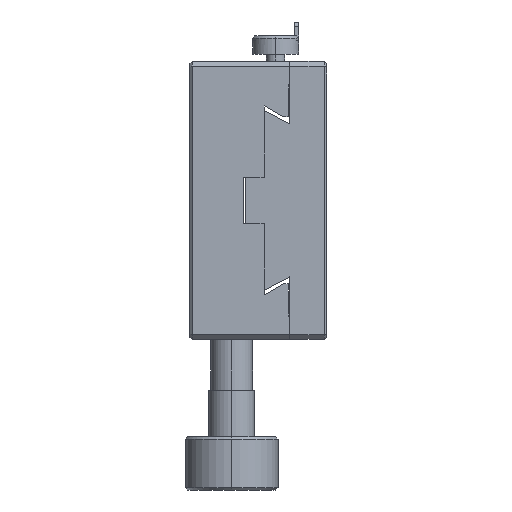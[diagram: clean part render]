
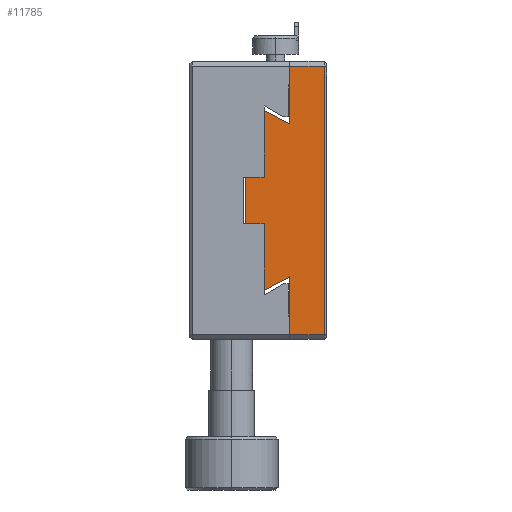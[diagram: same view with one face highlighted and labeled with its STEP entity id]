
A CAD part, left-side view. The second image highlights one B-rep face of the part: STEP entity #11785.
In plain terms, the highlighted planar face has unit normal (-1, 0, 0).
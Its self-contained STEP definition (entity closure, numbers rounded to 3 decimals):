
#65 = EDGE_CURVE ( 'NONE', #17365, #15823, #17699, .T. ) ;
#528 = ORIENTED_EDGE ( 'NONE', *, *, #14105, .F. ) ;
#829 = DIRECTION ( 'NONE',  ( 0., 1., 0. ) ) ;
#1056 = CARTESIAN_POINT ( 'NONE',  ( -243.708, -3.5, -29. ) ) ;
#1153 = VERTEX_POINT ( 'NONE', #1056 ) ;
#1317 = CARTESIAN_POINT ( 'NONE',  ( -243.708, 4., 16.519 ) ) ;
#1327 = CARTESIAN_POINT ( 'NONE',  ( -243.708, 9.5, 19.382 ) ) ;
#1492 = DIRECTION ( 'NONE',  ( 0., 0., 1. ) ) ;
#1901 = FACE_OUTER_BOUND ( 'NONE', #11229, .T. ) ;
#2115 = ORIENTED_EDGE ( 'NONE', *, *, #6313, .F. ) ;
#2584 = VERTEX_POINT ( 'NONE', #1327 ) ;
#2736 = ORIENTED_EDGE ( 'NONE', *, *, #11914, .F. ) ;
#2914 = EDGE_CURVE ( 'NONE', #5592, #8417, #3350, .T. ) ;
#3350 = LINE ( 'NONE', #17374, #6217 ) ;
#3634 = CARTESIAN_POINT ( 'NONE',  ( -243.708, 9.5, 19.382 ) ) ;
#3910 = CARTESIAN_POINT ( 'NONE',  ( -243.708, 9.5, -19.382 ) ) ;
#3991 = DIRECTION ( 'NONE',  ( 0., 0., 1. ) ) ;
#4134 = CARTESIAN_POINT ( 'NONE',  ( -243.708, 4., -16.519 ) ) ;
#4387 = DIRECTION ( 'NONE',  ( 0., -1., 0. ) ) ;
#4440 = EDGE_CURVE ( 'NONE', #9505, #10512, #10595, .T. ) ;
#4488 = ORIENTED_EDGE ( 'NONE', *, *, #11390, .F. ) ;
#5101 = LINE ( 'NONE', #7902, #7986 ) ;
#5526 = VERTEX_POINT ( 'NONE', #14689 ) ;
#5592 = VERTEX_POINT ( 'NONE', #6428 ) ;
#6217 = VECTOR ( 'NONE', #14652, 1000. ) ;
#6299 = CARTESIAN_POINT ( 'NONE',  ( -243.708, 9.5, 5. ) ) ;
#6313 = EDGE_CURVE ( 'NONE', #7208, #9505, #11243, .T. ) ;
#6428 = CARTESIAN_POINT ( 'NONE',  ( -243.708, 4., -29. ) ) ;
#6441 = CARTESIAN_POINT ( 'NONE',  ( -243.708, 4., 46.08 ) ) ;
#6488 = CARTESIAN_POINT ( 'NONE',  ( -243.708, 4., -16.519 ) ) ;
#6612 = VECTOR ( 'NONE', #17971, 1000. ) ;
#6733 = CARTESIAN_POINT ( 'NONE',  ( -243.708, 24., 5. ) ) ;
#6867 = ORIENTED_EDGE ( 'NONE', *, *, #11656, .F. ) ;
#7208 = VERTEX_POINT ( 'NONE', #13379 ) ;
#7222 = EDGE_CURVE ( 'NONE', #2584, #11341, #14316, .T. ) ;
#7379 = ORIENTED_EDGE ( 'NONE', *, *, #2914, .F. ) ;
#7902 = CARTESIAN_POINT ( 'NONE',  ( -243.708, 24., -5. ) ) ;
#7986 = VECTOR ( 'NONE', #829, 1000. ) ;
#8268 = DIRECTION ( 'NONE',  ( 0., -1., 0. ) ) ;
#8417 = VERTEX_POINT ( 'NONE', #6488 ) ;
#8506 = CARTESIAN_POINT ( 'NONE',  ( -243.708, -3.5, 0. ) ) ;
#9505 = VERTEX_POINT ( 'NONE', #12404 ) ;
#9672 = CARTESIAN_POINT ( 'NONE',  ( -243.708, 9.5, -5. ) ) ;
#9705 = DIRECTION ( 'NONE',  ( 0., 0., -1. ) ) ;
#9908 = CARTESIAN_POINT ( 'NONE',  ( -243.708, 13.5, 46.08 ) ) ;
#10105 = DIRECTION ( 'NONE',  ( 0., 1., 0. ) ) ;
#10206 = DIRECTION ( 'NONE',  ( 0., 0., -1. ) ) ;
#10512 = VERTEX_POINT ( 'NONE', #6299 ) ;
#10595 = LINE ( 'NONE', #6733, #18363 ) ;
#10773 = VECTOR ( 'NONE', #13405, 1000. ) ;
#10810 = EDGE_CURVE ( 'NONE', #10512, #2584, #16571, .T. ) ;
#11064 = CARTESIAN_POINT ( 'NONE',  ( -243.708, 4., 29. ) ) ;
#11142 = PLANE ( 'NONE',  #15982 ) ;
#11229 = EDGE_LOOP ( 'NONE', ( #12918, #14161, #2115, #18116, #15230, #12142, #7379, #528, #2736, #4488, #6867, #12071 ) ) ;
#11243 = LINE ( 'NONE', #9908, #12599 ) ;
#11341 = VERTEX_POINT ( 'NONE', #1317 ) ;
#11390 = EDGE_CURVE ( 'NONE', #12739, #5526, #16555, .T. ) ;
#11656 = EDGE_CURVE ( 'NONE', #11341, #12739, #15875, .T. ) ;
#11785 = ADVANCED_FACE ( 'NONE', ( #1901 ), #11142, .F. ) ;
#11914 = EDGE_CURVE ( 'NONE', #5526, #1153, #16752, .T. ) ;
#12071 = ORIENTED_EDGE ( 'NONE', *, *, #7222, .F. ) ;
#12142 = ORIENTED_EDGE ( 'NONE', *, *, #17536, .F. ) ;
#12404 = CARTESIAN_POINT ( 'NONE',  ( -243.708, 13.5, 5. ) ) ;
#12508 = CARTESIAN_POINT ( 'NONE',  ( -243.708, 9.5, 46.08 ) ) ;
#12599 = VECTOR ( 'NONE', #1492, 1000. ) ;
#12739 = VERTEX_POINT ( 'NONE', #11064 ) ;
#12918 = ORIENTED_EDGE ( 'NONE', *, *, #10810, .F. ) ;
#13379 = CARTESIAN_POINT ( 'NONE',  ( -243.708, 13.5, -5. ) ) ;
#13405 = DIRECTION ( 'NONE',  ( 0., 0., 1. ) ) ;
#13553 = DIRECTION ( 'NONE',  ( 0., -0.887, -0.462 ) ) ;
#13821 = VECTOR ( 'NONE', #10105, 1000. ) ;
#14105 = EDGE_CURVE ( 'NONE', #1153, #5592, #16907, .T. ) ;
#14126 = DIRECTION ( 'NONE',  ( 0., 0.887, -0.462 ) ) ;
#14161 = ORIENTED_EDGE ( 'NONE', *, *, #4440, .F. ) ;
#14316 = LINE ( 'NONE', #3634, #17663 ) ;
#14378 = CARTESIAN_POINT ( 'NONE',  ( -243.708, 24., 29. ) ) ;
#14384 = VECTOR ( 'NONE', #14126, 1000. ) ;
#14393 = CARTESIAN_POINT ( 'NONE',  ( -243.708, 24., -29. ) ) ;
#14652 = DIRECTION ( 'NONE',  ( 0., 0., 1. ) ) ;
#14689 = CARTESIAN_POINT ( 'NONE',  ( -243.708, -3.5, 29. ) ) ;
#15069 = CARTESIAN_POINT ( 'NONE',  ( -243.708, 9.5, 46.08 ) ) ;
#15230 = ORIENTED_EDGE ( 'NONE', *, *, #65, .F. ) ;
#15282 = EDGE_CURVE ( 'NONE', #15823, #7208, #5101, .T. ) ;
#15545 = DIRECTION ( 'NONE',  ( 1., 0., 0. ) ) ;
#15823 = VERTEX_POINT ( 'NONE', #9672 ) ;
#15858 = VECTOR ( 'NONE', #10206, 1000. ) ;
#15875 = LINE ( 'NONE', #6441, #10773 ) ;
#15982 = AXIS2_PLACEMENT_3D ( 'NONE', #18164, #15545, #9705 ) ;
#16119 = VECTOR ( 'NONE', #4387, 1000. ) ;
#16555 = LINE ( 'NONE', #14378, #16119 ) ;
#16571 = LINE ( 'NONE', #12508, #17909 ) ;
#16752 = LINE ( 'NONE', #8506, #15858 ) ;
#16907 = LINE ( 'NONE', #14393, #13821 ) ;
#17269 = LINE ( 'NONE', #4134, #14384 ) ;
#17365 = VERTEX_POINT ( 'NONE', #3910 ) ;
#17374 = CARTESIAN_POINT ( 'NONE',  ( -243.708, 4., 46.08 ) ) ;
#17536 = EDGE_CURVE ( 'NONE', #8417, #17365, #17269, .T. ) ;
#17663 = VECTOR ( 'NONE', #13553, 1000. ) ;
#17699 = LINE ( 'NONE', #15069, #6612 ) ;
#17909 = VECTOR ( 'NONE', #3991, 1000. ) ;
#17971 = DIRECTION ( 'NONE',  ( 0., 0., 1. ) ) ;
#18116 = ORIENTED_EDGE ( 'NONE', *, *, #15282, .F. ) ;
#18164 = CARTESIAN_POINT ( 'NONE',  ( -243.708, 24., 46.08 ) ) ;
#18363 = VECTOR ( 'NONE', #8268, 1000. ) ;
